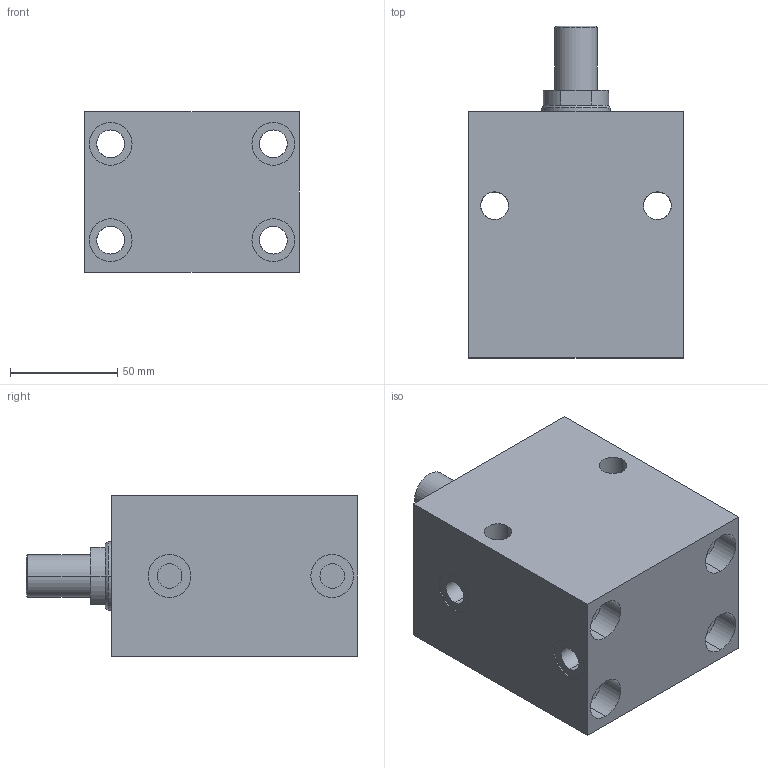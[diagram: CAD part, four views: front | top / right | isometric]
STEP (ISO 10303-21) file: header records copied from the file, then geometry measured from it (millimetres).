
FILE_DESCRIPTION (( 'STEP AP203' ), '1' );
FILE_NAME ('GERMA_Blockzylinder_600-050-050-A.STEP', '2015-08-22T18:30:01', ( '' ), ( '' ), 'SwSTEP 2.0', 'SolidWorks 2015', '' );
FILE_SCHEMA (( 'CONFIG_CONTROL_DESIGN' ));
Length unit declared in the file: millimetre
Products named in the file (3): GH-600-050_GH-600-050-050; Kolben 60x-050_Kolben DU.50-Hub50-AG; GERMA_Blockzylinder_600-050-050-A
Assembly tree (2 placements, depth 2):
  GERMA_Blockzylinder_600-050-050-A
    GH-600-050_GH-600-050-050
    Kolben 60x-050_Kolben DU.50-Hub50-AG
Bounding box: 100 x 155 x 75 mm (x, y, z)
Volume: 724107.4 mm3; surface area: 114497 mm2
Topology: 2 solids, 2 shells, 113 faces, 258 edges, 157 vertices
Faces by surface type: cylinder 71, plane 30, cone 12
Entity records: 3498 total; most frequent: CARTESIAN_POINT 625, DIRECTION 579, ORIENTED_EDGE 508, EDGE_CURVE 254, AXIS2_PLACEMENT_3D 239, VERTEX_POINT 157, EDGE_LOOP 145, CIRCLE 121
